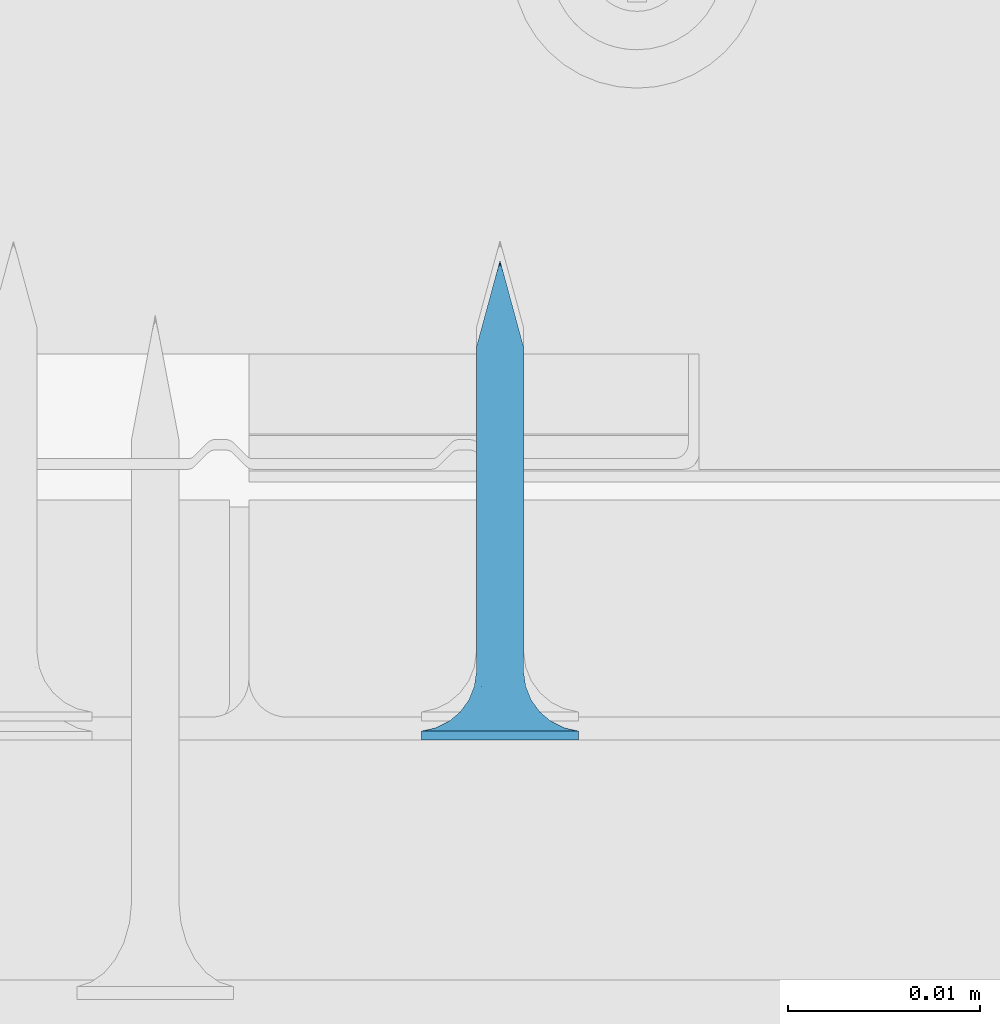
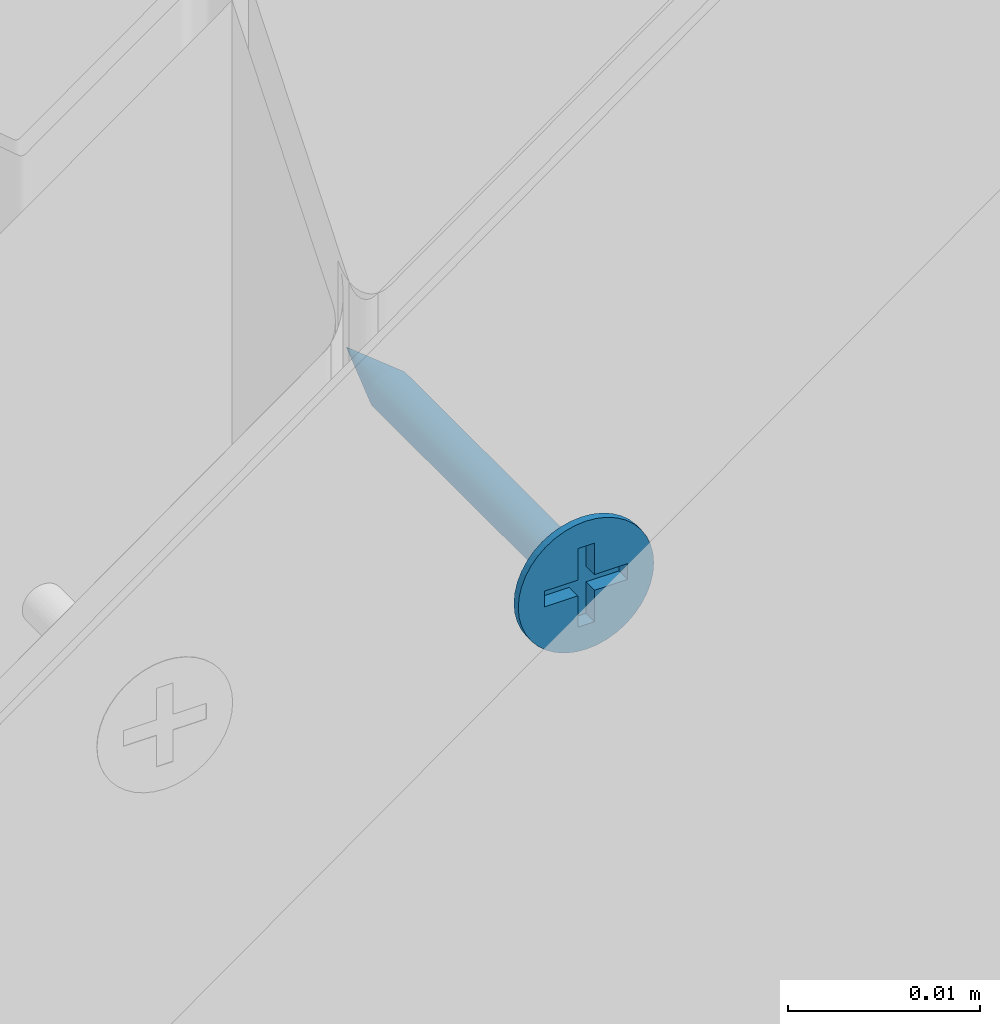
# One storey, part 24 of 38: 1 wall.
"""IFC2X3 building model written with IfcOpenShell, lengths in millimetres."""

from ifc_helpers import new_model, entity, si_unit, converted_unit, direction, frame, origin, origin_with_axes, place, context, project, spatial, faceted_brep, element, save


model = new_model("IFC2X3")

# Units and contexts
model_context = context("Model", 3, precision=1e-05, world=origin(), true_north=direction((0.0, 1.0, 0.0)))
ifc_project = project(units=[si_unit("LENGTHUNIT", "METRE", prefix="MILLI"), si_unit("AREAUNIT", "SQUARE_METRE"), si_unit("VOLUMEUNIT", "CUBIC_METRE"), converted_unit("PLANEANGLEUNIT", "DEGREE", entity("IfcPlaneAngleMeasure", 0.01745), si_unit("PLANEANGLEUNIT", "RADIAN"), dimensions=[0, 0, 0, 0, 0, 0, 0]), si_unit("SOLIDANGLEUNIT", "STERADIAN"), si_unit("MASSUNIT", "GRAM"), si_unit("TIMEUNIT", "SECOND"), si_unit("THERMODYNAMICTEMPERATUREUNIT", "DEGREE_CELSIUS"), si_unit("LUMINOUSINTENSITYUNIT", "LUMEN")], contexts=[model_context])

# Site, building, storey
site_placement = place(None, origin_with_axes())
site = spatial("IfcSite", under=ifc_project, at=site_placement, Name="Default Site", CompositionType="ELEMENT")
building_placement = place(site_placement, origin_with_axes())
building = spatial("IfcBuilding", under=site, at=building_placement, Name="Default Building", CompositionType="ELEMENT")
storey_placement = place(building_placement, origin_with_axes())
storey = spatial("IfcBuildingStorey", under=building, at=storey_placement, Name="Default Building Storey", CompositionType="ELEMENT", Elevation=0.0)

# Wall
wall_placement = place(storey_placement, frame((2438.967443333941, 5349.713057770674, -449.8785300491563), z_axis=(0.0, 0.0, 1.0), x_axis=(1.0, 8.115730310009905e-16, 0.0)))
element("IfcWall", 1, at=wall_placement, inside=storey, Name="Wkręt RIGIPS TN 25", context=model_context, shape_type="Brep", body=[
    faceted_brep([(-141.5377463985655, -3390.556721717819, 555.8000000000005), (-141.5377463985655, -3391.020944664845, 555.8000000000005), (-141.4875329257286, -3391.020944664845, 555.1619773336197), (-141.4875329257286, -3390.556721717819, 555.1619773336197), (-141.338128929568, -3391.020944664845, 554.5396649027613), (-141.338128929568, -3390.556721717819, 554.5396649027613), (-141.0932132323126, -3391.020944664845, 553.9483861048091), (-141.0932132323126, -3390.556721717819, 553.9483861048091), (-140.7588164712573, -3391.020944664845, 553.4027001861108), (-140.7588164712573, -3390.556721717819, 553.4027001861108), (-140.3431726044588, -3391.020944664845, 552.9160437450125), (-140.4541727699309, -3390.556721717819, 553.0314907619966), (-140.1080097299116, -3390.556721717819, 552.6986614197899), (-139.8565161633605, -3391.020944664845, 552.500399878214), (-139.7251262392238, -3390.556721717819, 552.4088262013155), (-139.3108302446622, -3391.020944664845, 552.1660031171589), (-139.3108302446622, -3390.556721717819, 552.1660031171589), (-138.8708651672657, -3390.556721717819, 551.9735584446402), (-138.7195514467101, -3391.020944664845, 551.9210874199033), (-138.4113302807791, -3390.556721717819, 551.8341600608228), (-137.9385961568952, -3390.556721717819, 551.7497404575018), (-138.0972390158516, -3391.020944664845, 551.7716834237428), (-137.459216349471, -3391.020944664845, 551.7214699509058), (-137.459216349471, -3390.556721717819, 551.7214699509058), (-136.8211936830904, -3391.020944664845, 551.7716834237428), (-136.8211936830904, -3390.556721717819, 551.7716834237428), (-136.198881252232, -3391.020944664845, 551.9210874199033), (-136.198881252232, -3390.556721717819, 551.9210874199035), (-135.6076024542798, -3391.020944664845, 552.1660031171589), (-135.6076024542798, -3390.556721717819, 552.1660031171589), (-135.0619165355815, -3391.020944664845, 552.500399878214), (-135.0619165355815, -3390.556721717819, 552.500399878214), (-134.5752600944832, -3391.020944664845, 552.9160437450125), (-134.5752600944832, -3390.556721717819, 552.9160437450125), (-134.1596162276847, -3391.020944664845, 553.4027001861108), (-134.1596162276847, -3390.556721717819, 553.4027001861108), (-133.8252194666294, -3391.020944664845, 553.9483861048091), (-133.8252194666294, -3390.556721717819, 553.9483861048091), (-133.580303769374, -3391.020944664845, 554.5396649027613), (-133.580303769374, -3390.556721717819, 554.5396649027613), (-133.4308997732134, -3391.020944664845, 556.438022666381), (-133.4308997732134, -3390.556721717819, 556.438022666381), (-133.3806863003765, -3390.556721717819, 555.8000000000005), (-133.3806863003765, -3391.020944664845, 555.8000000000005), (-133.4308997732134, -3390.556721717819, 555.1619773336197), (-133.4308997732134, -3391.020944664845, 555.1619773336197), (-133.580303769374, -3391.020944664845, 557.0603350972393), (-133.580303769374, -3390.556721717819, 557.0603350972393), (-133.8252194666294, -3391.020944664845, 557.6516138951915), (-133.8252194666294, -3390.556721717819, 557.6516138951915), (-134.1596162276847, -3391.020944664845, 558.1972998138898), (-134.1596162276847, -3390.556721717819, 558.1972998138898), (-134.5752600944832, -3391.020944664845, 558.6839562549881), (-134.5752600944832, -3390.556721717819, 558.6839562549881), (-135.0619165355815, -3391.020944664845, 559.0996001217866), (-135.0619165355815, -3390.556721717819, 559.0996001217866), (-135.6076024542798, -3391.020944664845, 559.4339968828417), (-135.6076024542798, -3390.556721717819, 559.4339968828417), (-136.198881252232, -3391.020944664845, 559.6789125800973), (-136.198881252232, -3390.556721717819, 559.6789125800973), (-136.8211936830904, -3391.020944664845, 559.8283165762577), (-136.8211936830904, -3390.556721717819, 559.8283165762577), (-137.459216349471, -3391.020944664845, 559.8785300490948), (-137.459216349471, -3390.556721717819, 559.8785300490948), (-138.0972390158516, -3391.020944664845, 559.8283165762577), (-138.0972390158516, -3390.556721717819, 559.8283165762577), (-138.7195514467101, -3391.020944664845, 559.6789125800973), (-138.7195514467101, -3390.556721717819, 559.6789125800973), (-139.3108302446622, -3391.020944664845, 559.4339968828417), (-139.3108302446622, -3390.556721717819, 559.4339968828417), (-139.8565161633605, -3391.020944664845, 559.0996001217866), (-139.8565161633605, -3390.556721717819, 559.0996001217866), (-140.3431726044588, -3391.020944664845, 558.6839562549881), (-140.3431726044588, -3390.556721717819, 558.6839562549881), (-140.7588164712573, -3391.020944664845, 558.1972998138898), (-140.7588164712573, -3390.556721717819, 558.1972998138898), (-141.0932132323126, -3391.020944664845, 557.6516138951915), (-141.0932132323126, -3390.556721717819, 557.6516138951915), (-141.338128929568, -3391.020944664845, 557.0603350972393), (-141.338128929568, -3390.556721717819, 557.0603350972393), (-141.4875329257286, -3391.020944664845, 556.438022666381), (-141.4875329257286, -3390.556721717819, 556.438022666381), (-137.8060615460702, -3388.229732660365, 554.5055560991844), (-137.459216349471, -3387.475459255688, 554.5693795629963), (-137.6517277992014, -3387.475459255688, 554.5845305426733), (-137.459216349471, -3388.229732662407, 554.4598930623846), (-137.8394989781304, -3387.475459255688, 554.6296104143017), (-138.1292698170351, -3388.229732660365, 554.6394333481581), (-138.0179063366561, -3387.475459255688, 554.7035091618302), (-138.1825568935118, -3387.475459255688, 554.8044071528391), (-138.4068150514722, -3388.229732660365, 554.8524012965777), (-138.3293964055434, -3387.475459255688, 554.9298199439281), (-138.6197830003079, -3388.229732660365, 555.1299465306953), (-138.4548091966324, -3387.475459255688, 555.0766594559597), (-138.5557071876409, -3387.475459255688, 555.2413100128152), (-138.7536602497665, -3388.229732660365, 555.4531548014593), (-138.6296059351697, -3387.475459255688, 555.4197173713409), (-138.6746858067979, -3387.475459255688, 555.6074885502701), (-138.7993232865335, -3388.229732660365, 555.7999999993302), (-138.6898367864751, -3387.475459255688, 555.8000000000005), (-138.7536602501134, -3388.229732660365, 556.1468451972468), (-138.6746858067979, -3387.475459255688, 555.9925114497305), (-138.6296059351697, -3387.475459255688, 556.1802826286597), (-138.6197830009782, -3388.229732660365, 556.4700534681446), (-138.5557071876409, -3387.475459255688, 556.3586899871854), (-138.4548091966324, -3387.475459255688, 556.5233405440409), (-138.4068150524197, -3388.229732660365, 556.7475987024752), (-138.3293964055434, -3387.475459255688, 556.6701800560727), (-138.1292698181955, -3388.229732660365, 556.9605666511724), (-138.1825568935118, -3387.475459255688, 556.7955928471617), (-138.0179063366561, -3387.475459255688, 556.8964908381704), (-137.8060615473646, -3388.229732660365, 557.0944439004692), (-137.8394989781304, -3387.475459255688, 556.9703895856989), (-137.6517277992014, -3387.475459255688, 557.0154694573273), (-137.459216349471, -3388.229732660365, 557.1401069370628), (-137.459216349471, -3387.475459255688, 557.0306204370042), (-137.1123711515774, -3388.229732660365, 557.0944439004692), (-137.2667048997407, -3387.475459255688, 557.0154694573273), (-137.0789337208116, -3387.475459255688, 556.9703895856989), (-136.7891628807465, -3388.229732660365, 556.9605666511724), (-136.9005263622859, -3387.475459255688, 556.8964908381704), (-136.7358758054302, -3387.475459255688, 556.7955928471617), (-136.5116176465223, -3388.229732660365, 556.7475987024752), (-136.5890362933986, -3387.475459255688, 556.6701800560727), (-136.2986496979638, -3388.229732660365, 556.4700534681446), (-136.4636235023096, -3387.475459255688, 556.5233405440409), (-136.3627255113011, -3387.475459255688, 556.3586899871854), (-136.1647724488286, -3388.229732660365, 556.1468451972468), (-136.2888267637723, -3387.475459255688, 556.1802826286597), (-136.2437468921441, -3387.475459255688, 555.9925114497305), (-136.1191094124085, -3388.229732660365, 555.7999999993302), (-136.2285959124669, -3387.475459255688, 555.8000000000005), (-136.1647724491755, -3388.229732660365, 555.4531548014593), (-136.2437468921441, -3387.475459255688, 555.6074885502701), (-136.2888267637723, -3387.475459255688, 555.4197173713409), (-136.2986496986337, -3388.229732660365, 555.1299465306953), (-136.3627255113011, -3387.475459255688, 555.2413100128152), (-136.4636235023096, -3387.475459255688, 555.0766594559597), (-136.5116176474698, -3388.229732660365, 554.8524012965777), (-136.5890362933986, -3387.475459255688, 554.9298199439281), (-136.7891628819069, -3388.229732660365, 554.6394333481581), (-136.7358758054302, -3387.475459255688, 554.8044071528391), (-136.9005263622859, -3387.475459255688, 554.7035091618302), (-137.1123711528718, -3388.229732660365, 554.5055560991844), (-137.0789337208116, -3387.475459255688, 554.6296104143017), (-137.2667048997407, -3387.475459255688, 554.5845305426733), (-137.459216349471, -3388.936142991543, 554.1737111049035), (-137.8801308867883, -3388.936142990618, 554.2291255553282), (-138.2723607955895, -3388.936142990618, 554.39159250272), (-138.6091762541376, -3388.936142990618, 554.6500400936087), (-138.8676238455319, -3388.936142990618, 554.9868555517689), (-139.030090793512, -3388.936142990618, 555.3790854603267), (-139.0855052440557, -3388.936142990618, 555.7999999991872), (-139.0300907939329, -3388.936142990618, 556.220914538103), (-138.8676238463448, -3388.936142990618, 556.6131444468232), (-138.6091762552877, -3388.936142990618, 556.949959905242), (-138.272360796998, -3388.936142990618, 557.2084074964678), (-137.8801308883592, -3388.936142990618, 557.3708744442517), (-137.459216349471, -3388.936142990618, 557.4262888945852), (-137.0383018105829, -3388.936142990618, 557.3708744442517), (-136.646071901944, -3388.936142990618, 557.2084074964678), (-136.3092564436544, -3388.936142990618, 556.949959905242), (-136.0508088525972, -3388.936142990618, 556.6131444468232), (-135.8883419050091, -3388.936142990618, 556.220914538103), (-135.8329274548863, -3388.936142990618, 555.7999999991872), (-135.88834190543, -3388.936142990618, 555.3790854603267), (-136.0508088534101, -3388.936142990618, 554.9868555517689), (-136.3092564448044, -3388.936142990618, 554.6500400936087), (-136.6460719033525, -3388.936142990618, 554.39159250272), (-137.0383018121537, -3388.936142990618, 554.2291255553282), (-137.459216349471, -3389.553938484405, 553.727343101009), (-137.995659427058, -3389.553938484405, 553.7979671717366), (-138.4955447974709, -3389.553938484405, 554.0050264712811), (-138.9248060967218, -3389.553938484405, 554.3344102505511), (-139.2541898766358, -3389.553938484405, 554.763671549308), (-139.46124917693, -3389.553938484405, 555.2635569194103), (-139.5318732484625, -3389.553938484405, 555.799999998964), (-139.4612491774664, -3389.553938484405, 556.3364430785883), (-139.2541898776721, -3389.553938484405, 556.8363284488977), (-138.9248060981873, -3389.553938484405, 557.2655897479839), (-138.495544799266, -3389.553938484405, 557.5949735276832), (-137.9956594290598, -3389.553938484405, 557.8020328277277), (-137.459216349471, -3389.553938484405, 557.8726568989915), (-136.9227732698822, -3389.553938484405, 557.8020328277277), (-136.422887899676, -3389.553938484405, 557.5949735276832), (-135.9936266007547, -3389.553938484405, 557.2655897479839), (-135.6642428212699, -3389.553938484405, 556.8363284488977), (-135.4571835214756, -3389.553938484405, 556.3364430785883), (-135.3865594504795, -3389.553938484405, 555.799999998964), (-135.457183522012, -3389.553938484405, 555.2635569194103), (-135.6642428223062, -3389.553938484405, 554.763671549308), (-135.9936266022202, -3389.553938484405, 554.3344102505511), (-136.4228879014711, -3389.553938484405, 554.0050264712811), (-136.922773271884, -3389.553938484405, 553.7979671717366), (-137.459216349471, -3390.04747944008, 553.1465393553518), (-138.1459824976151, -3390.047479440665, 553.2369538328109), (-138.7859466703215, -3390.047479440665, 553.5020356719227), (-139.3354963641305, -3390.047479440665, 553.9237199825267), (-139.7571806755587, -3390.047479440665, 554.4732696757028), (-140.0222625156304, -3390.047479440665, 555.1132338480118), (-140.1126769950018, -3390.047479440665, 555.7999999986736), (-140.0222625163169, -3390.047479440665, 556.4867661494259), (-139.7571806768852, -3390.047479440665, 557.1267303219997), (-139.3354963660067, -3390.047479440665, 557.6762800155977), (-138.7859466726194, -3390.047479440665, 558.0979643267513), (-138.1459825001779, -3390.047479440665, 558.3630461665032), (-137.459216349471, -3390.047479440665, 558.4534606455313), (-136.7724501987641, -3390.047479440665, 558.3630461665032), (-136.1324860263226, -3390.047479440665, 558.0979643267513), (-135.5829363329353, -3390.047479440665, 557.6762800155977), (-135.1612520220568, -3390.047479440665, 557.1267303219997), (-134.8961701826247, -3390.047479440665, 556.4867661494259), (-134.8057557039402, -3390.047479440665, 555.7999999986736), (-134.8961701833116, -3390.047479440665, 555.1132338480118), (-135.1612520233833, -3390.047479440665, 554.4732696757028), (-135.5829363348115, -3390.047479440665, 553.9237199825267), (-136.1324860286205, -3390.047479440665, 553.5020356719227), (-136.7724502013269, -3390.047479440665, 553.2369538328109), (-137.459216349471, -3390.388294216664, 552.4648055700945), (-138.3224281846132, -3390.388294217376, 552.5784495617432), (-139.1268135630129, -3390.388294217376, 552.9116368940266), (-139.8175549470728, -3390.388294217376, 553.4416613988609), (-140.3475794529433, -3390.388294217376, 554.1324027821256), (-140.6807667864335, -3390.388294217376, 554.936788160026), (-140.7944107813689, -3390.388294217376, 555.7999999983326), (-140.6807667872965, -3390.388294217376, 556.663211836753), (-140.3475794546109, -3390.388294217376, 557.4675972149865), (-139.8175549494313, -3390.388294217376, 558.1583385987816), (-139.1268135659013, -3390.388294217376, 558.6883631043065), (-138.3224281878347, -3390.388294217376, 559.0215504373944), (-137.459216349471, -3390.388294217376, 559.1351944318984), (-136.5960045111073, -3390.388294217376, 559.0215504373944), (-135.7916191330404, -3390.388294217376, 558.6883631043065), (-135.1008777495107, -3390.388294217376, 558.1583385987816), (-134.5708532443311, -3390.388294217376, 557.4675972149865), (-134.2376659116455, -3390.388294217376, 556.663211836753), (-134.1240219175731, -3390.388294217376, 555.7999999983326), (-134.2376659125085, -3390.388294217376, 554.936788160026), (-134.5708532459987, -3390.388294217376, 554.1324027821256), (-135.1008777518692, -3390.388294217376, 553.4416613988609), (-135.7916191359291, -3390.388294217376, 552.9116368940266), (-136.5960045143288, -3390.388294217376, 552.5784495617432), (-138.6898367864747, -3370.55807436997, 555.8000000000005), (-138.6746858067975, -3370.55807436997, 555.6074885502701), (-138.6296059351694, -3370.55807436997, 555.4197173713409), (-138.5557071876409, -3370.55807436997, 555.2413100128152), (-138.4548091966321, -3370.55807436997, 555.0766594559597), (-138.329396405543, -3370.55807436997, 554.9298199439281), (-138.1825568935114, -3370.55807436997, 554.8044071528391), (-138.0179063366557, -3370.55807436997, 554.7035091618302), (-137.83949897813, -3370.55807436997, 554.6296104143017), (-137.651727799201, -3370.55807436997, 554.5845305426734), (-137.4592163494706, -3370.55807436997, 554.5693795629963), (-137.2667048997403, -3370.55807436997, 554.5845305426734), (-137.0789337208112, -3370.55807436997, 554.6296104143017), (-136.9005263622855, -3370.55807436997, 554.7035091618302), (-136.7358758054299, -3370.55807436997, 554.8044071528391), (-136.5890362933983, -3370.55807436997, 554.9298199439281), (-136.4636235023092, -3370.55807436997, 555.0766594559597), (-136.3627255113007, -3370.55807436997, 555.2413100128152), (-136.2888267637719, -3370.55807436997, 555.4197173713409), (-136.2437468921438, -3370.55807436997, 555.9925114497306), (-136.2285959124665, -3370.55807436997, 555.8000000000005), (-136.2437468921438, -3370.55807436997, 555.6074885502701), (-136.2888267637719, -3370.55807436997, 556.1802826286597), (-136.3627255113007, -3370.55807436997, 556.3586899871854), (-136.4636235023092, -3370.55807436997, 556.5233405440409), (-136.5890362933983, -3370.55807436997, 556.6701800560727), (-136.7358758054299, -3370.55807436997, 556.7955928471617), (-136.9005263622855, -3370.55807436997, 556.8964908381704), (-137.0789337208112, -3370.55807436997, 556.9703895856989), (-137.2667048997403, -3370.55807436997, 557.0154694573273), (-137.4592163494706, -3370.55807436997, 557.0306204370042), (-137.651727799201, -3370.55807436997, 557.0154694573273), (-137.83949897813, -3370.55807436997, 556.9703895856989), (-138.0179063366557, -3370.55807436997, 556.8964908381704), (-138.1825568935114, -3370.55807436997, 556.7955928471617), (-138.329396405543, -3370.55807436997, 556.6701800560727), (-138.4548091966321, -3370.55807436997, 556.5233405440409), (-138.5557071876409, -3370.55807436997, 556.3586899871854), (-138.6296059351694, -3370.55807436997, 556.1802826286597), (-138.6746858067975, -3370.55807436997, 555.9925114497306), (-137.4592163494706, -3366.021033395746, 555.8000000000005), (-139.9592163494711, -3391.020944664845, 556.3000000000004), (-137.9592163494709, -3391.020944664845, 556.3000000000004), (-139.9592163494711, -3391.020944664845, 555.3000000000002), (-137.9592163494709, -3391.020944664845, 555.3000000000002), (-137.9592163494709, -3391.020944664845, 553.3000000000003), (-136.9592163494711, -3391.020944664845, 553.3000000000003), (-136.9592163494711, -3391.020944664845, 555.3000000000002), (-134.9592163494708, -3391.020944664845, 555.3000000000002), (-134.9592163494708, -3391.020944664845, 556.3000000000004), (-136.9592163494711, -3391.020944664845, 556.3000000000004), (-136.9592163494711, -3391.020944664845, 558.3000000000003), (-137.9592163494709, -3391.020944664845, 558.3000000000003), (-136.9592163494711, -3390.128974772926, 556.3000000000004), (-134.9592163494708, -3390.128974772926, 556.3000000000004), (-134.9592163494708, -3390.128974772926, 555.3000000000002), (-136.9592163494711, -3390.128974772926, 555.3000000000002), (-136.9592163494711, -3390.128974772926, 553.3000000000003), (-137.9592163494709, -3390.128974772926, 553.3000000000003), (-137.9592163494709, -3390.128974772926, 555.3000000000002), (-139.9592163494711, -3390.128974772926, 555.3000000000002), (-139.9592163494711, -3390.128974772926, 556.3000000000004), (-137.9592163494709, -3390.128974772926, 556.3000000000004), (-137.9592163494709, -3390.128974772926, 558.3000000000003), (-136.9592163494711, -3390.128974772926, 558.3000000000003)], [[[0, 1, 2, 3]], [[4, 5, 3, 2]], [[6, 7, 5, 4]], [[7, 6, 8, 9]], [[8, 10, 9]], [[10, 11, 9]], [[12, 11, 13]], [[11, 10, 13]], [[13, 14, 12]], [[13, 15, 14]], [[15, 16, 14]], [[17, 16, 18]], [[16, 15, 18]], [[18, 19, 17]], [[20, 19, 21]], [[19, 18, 21]], [[21, 22, 20]], [[22, 23, 20]], [[23, 22, 24, 25]], [[26, 27, 25, 24]], [[28, 29, 27, 26]], [[29, 28, 30, 31]], [[32, 33, 31, 30]], [[33, 32, 34, 35]], [[36, 37, 35, 34]], [[38, 39, 37, 36]], [[40, 41, 42, 43]], [[43, 42, 44, 45]], [[39, 38, 45, 44]], [[46, 47, 41, 40]], [[48, 49, 47, 46]], [[49, 48, 50, 51]], [[52, 53, 51, 50]], [[53, 52, 54, 55]], [[56, 57, 55, 54]], [[58, 59, 57, 56]], [[59, 58, 60, 61]], [[62, 63, 61, 60]], [[63, 62, 64, 65]], [[66, 67, 65, 64]], [[68, 69, 67, 66]], [[69, 68, 70, 71]], [[72, 73, 71, 70]], [[73, 72, 74, 75]], [[76, 77, 75, 74]], [[78, 79, 77, 76]], [[79, 78, 80, 81]], [[1, 0, 81, 80]], [[82, 83, 84]], [[82, 85, 83]], [[84, 86, 82]], [[82, 86, 87]], [[88, 87, 86]], [[87, 88, 89]], [[89, 90, 87]], [[89, 91, 90]], [[92, 91, 93]], [[92, 90, 91]], [[93, 94, 92]], [[92, 94, 95]], [[96, 95, 94]], [[95, 96, 97]], [[97, 98, 95]], [[97, 99, 98]], [[100, 99, 101]], [[100, 98, 99]], [[101, 102, 100]], [[100, 102, 103]], [[104, 103, 102]], [[103, 104, 105]], [[105, 106, 103]], [[105, 107, 106]], [[108, 107, 109]], [[108, 106, 107]], [[109, 110, 108]], [[108, 110, 111]], [[112, 111, 110]], [[111, 112, 113]], [[113, 114, 111]], [[113, 115, 114]], [[116, 115, 117]], [[116, 114, 115]], [[117, 118, 116]], [[116, 118, 119]], [[120, 119, 118]], [[119, 120, 121]], [[121, 122, 119]], [[121, 123, 122]], [[124, 123, 125]], [[124, 122, 123]], [[125, 126, 124]], [[124, 126, 127]], [[128, 127, 126]], [[127, 128, 129]], [[129, 130, 127]], [[129, 131, 130]], [[132, 131, 133]], [[132, 130, 131]], [[133, 134, 132]], [[132, 134, 135]], [[136, 135, 134]], [[135, 136, 137]], [[137, 138, 135]], [[137, 139, 138]], [[140, 139, 141]], [[140, 138, 139]], [[141, 142, 140]], [[140, 142, 143]], [[144, 143, 142]], [[143, 144, 145]], [[145, 85, 143]], [[145, 83, 85]], [[146, 85, 147]], [[82, 147, 85]], [[87, 148, 147, 82]], [[90, 149, 148, 87]], [[92, 150, 149, 90]], [[95, 151, 150, 92]], [[98, 152, 151, 95]], [[100, 153, 152, 98]], [[103, 154, 153, 100]], [[106, 155, 154, 103]], [[108, 156, 155, 106]], [[111, 157, 156, 108]], [[114, 158, 157, 111]], [[116, 159, 158, 114]], [[119, 160, 159, 116]], [[122, 161, 160, 119]], [[124, 162, 161, 122]], [[127, 163, 162, 124]], [[130, 164, 163, 127]], [[132, 165, 164, 130]], [[135, 166, 165, 132]], [[138, 167, 166, 135]], [[140, 168, 167, 138]], [[143, 169, 168, 140]], [[143, 85, 169]], [[146, 169, 85]], [[170, 146, 171]], [[147, 171, 146]], [[148, 172, 171, 147]], [[149, 173, 172, 148]], [[150, 174, 173, 149]], [[151, 175, 174, 150]], [[152, 176, 175, 151]], [[153, 177, 176, 152]], [[154, 178, 177, 153]], [[155, 179, 178, 154]], [[156, 180, 179, 155]], [[157, 181, 180, 156]], [[158, 182, 181, 157]], [[159, 183, 182, 158]], [[160, 184, 183, 159]], [[161, 185, 184, 160]], [[162, 186, 185, 161]], [[163, 187, 186, 162]], [[164, 188, 187, 163]], [[165, 189, 188, 164]], [[166, 190, 189, 165]], [[167, 191, 190, 166]], [[168, 192, 191, 167]], [[169, 193, 192, 168]], [[169, 146, 193]], [[170, 193, 146]], [[194, 170, 195]], [[171, 195, 170]], [[172, 196, 195, 171]], [[173, 197, 196, 172]], [[174, 198, 197, 173]], [[175, 199, 198, 174]], [[176, 200, 199, 175]], [[177, 201, 200, 176]], [[178, 202, 201, 177]], [[179, 203, 202, 178]], [[180, 204, 203, 179]], [[181, 205, 204, 180]], [[182, 206, 205, 181]], [[183, 207, 206, 182]], [[184, 208, 207, 183]], [[185, 209, 208, 184]], [[186, 210, 209, 185]], [[187, 211, 210, 186]], [[188, 212, 211, 187]], [[189, 213, 212, 188]], [[190, 214, 213, 189]], [[191, 215, 214, 190]], [[192, 216, 215, 191]], [[193, 217, 216, 192]], [[193, 170, 217]], [[194, 217, 170]], [[218, 19, 20]], [[218, 219, 19]], [[20, 23, 218]], [[218, 194, 219]], [[195, 219, 194]], [[219, 16, 17]], [[219, 220, 16]], [[17, 19, 219]], [[196, 220, 219, 195]], [[221, 11, 12]], [[220, 12, 14]], [[220, 221, 12]], [[14, 16, 220]], [[197, 221, 220, 196]], [[222, 7, 9]], [[9, 221, 222]], [[9, 11, 221]], [[198, 222, 221, 197]], [[5, 7, 223]], [[222, 223, 7]], [[199, 223, 222, 198]], [[223, 0, 3]], [[223, 224, 0]], [[3, 5, 223]], [[200, 224, 223, 199]], [[225, 79, 81]], [[81, 224, 225]], [[81, 0, 224]], [[201, 225, 224, 200]], [[225, 226, 77, 79]], [[202, 226, 225, 201]], [[226, 73, 75]], [[226, 227, 73]], [[75, 77, 226]], [[203, 227, 226, 202]], [[228, 69, 71]], [[71, 227, 228]], [[71, 73, 227]], [[204, 228, 227, 203]], [[228, 229, 67, 69]], [[205, 229, 228, 204]], [[229, 63, 65]], [[229, 230, 63]], [[65, 67, 229]], [[206, 230, 229, 205]], [[231, 59, 61]], [[61, 230, 231]], [[61, 63, 230]], [[207, 231, 230, 206]], [[231, 232, 57, 59]], [[208, 232, 231, 207]], [[232, 53, 55]], [[232, 233, 53]], [[55, 57, 232]], [[209, 233, 232, 208]], [[234, 49, 51]], [[51, 233, 234]], [[51, 53, 233]], [[210, 234, 233, 209]], [[234, 235, 47, 49]], [[211, 235, 234, 210]], [[235, 42, 41]], [[235, 236, 42]], [[41, 47, 235]], [[212, 236, 235, 211]], [[237, 39, 44]], [[44, 236, 237]], [[44, 42, 236]], [[213, 237, 236, 212]], [[37, 39, 238]], [[237, 238, 39]], [[214, 238, 237, 213]], [[238, 33, 35]], [[238, 239, 33]], [[35, 37, 238]], [[215, 239, 238, 214]], [[240, 29, 31]], [[31, 239, 240]], [[31, 33, 239]], [[216, 240, 239, 215]], [[27, 29, 241]], [[240, 241, 29]], [[217, 241, 240, 216]], [[217, 194, 241]], [[218, 241, 194]], [[241, 23, 25]], [[241, 218, 23]], [[25, 27, 241]], [[242, 99, 97, 243]], [[96, 244, 243, 97]], [[94, 245, 244, 96]], [[245, 94, 93, 246]], [[91, 247, 246, 93]], [[247, 91, 89, 248]], [[88, 249, 248, 89]], [[86, 250, 249, 88]], [[250, 86, 84, 251]], [[83, 252, 251, 84]], [[252, 83, 145, 253]], [[144, 254, 253, 145]], [[142, 255, 254, 144]], [[255, 142, 141, 256]], [[139, 257, 256, 141]], [[257, 139, 137, 258]], [[136, 259, 258, 137]], [[134, 260, 259, 136]], [[129, 261, 262, 131]], [[131, 262, 263, 133]], [[260, 134, 133, 263]], [[128, 264, 261, 129]], [[126, 265, 264, 128]], [[265, 126, 125, 266]], [[123, 267, 266, 125]], [[267, 123, 121, 268]], [[120, 269, 268, 121]], [[118, 270, 269, 120]], [[270, 118, 117, 271]], [[115, 272, 271, 117]], [[272, 115, 113, 273]], [[112, 274, 273, 113]], [[110, 275, 274, 112]], [[275, 110, 109, 276]], [[107, 277, 276, 109]], [[277, 107, 105, 278]], [[104, 279, 278, 105]], [[102, 280, 279, 104]], [[280, 102, 101, 281]], [[99, 242, 281, 101]], [[243, 244, 282]], [[282, 242, 243]], [[244, 245, 282]], [[246, 247, 282]], [[282, 245, 246]], [[248, 249, 282]], [[282, 247, 248]], [[249, 250, 282]], [[251, 252, 282]], [[282, 250, 251]], [[253, 254, 282]], [[282, 252, 253]], [[254, 255, 282]], [[256, 257, 282]], [[282, 255, 256]], [[258, 259, 282]], [[282, 257, 258]], [[259, 260, 282]], [[263, 262, 282]], [[282, 260, 263]], [[261, 264, 282]], [[282, 262, 261]], [[264, 265, 282]], [[266, 267, 282]], [[282, 265, 266]], [[268, 269, 282]], [[282, 267, 268]], [[269, 270, 282]], [[271, 272, 282]], [[282, 270, 271]], [[273, 274, 282]], [[282, 272, 273]], [[274, 275, 282]], [[276, 277, 282]], [[282, 275, 276]], [[278, 279, 282]], [[282, 277, 278]], [[279, 280, 282]], [[281, 242, 282]], [[282, 280, 281]], [[283, 76, 74, 284]], [[283, 285, 286, 287, 288, 289, 290, 291, 292, 293, 294, 284, 74, 72, 70, 68, 66, 64, 62, 60, 58, 56, 54, 52, 50, 48, 46, 40, 43, 45, 38, 36, 34, 32, 30, 28, 26, 24, 22, 21, 18, 15, 13, 10, 8, 6, 4, 2, 1, 80, 78, 76]], [[295, 296, 297, 298, 299, 300, 301, 302, 303, 304, 305, 306]], [[297, 290, 289, 298]], [[296, 291, 290, 297]], [[295, 292, 291, 296]], [[306, 293, 292, 295]], [[305, 294, 293, 306]], [[304, 284, 294, 305]], [[303, 283, 284, 304]], [[302, 285, 283, 303]], [[301, 286, 285, 302]], [[300, 287, 286, 301]], [[299, 288, 287, 300]], [[298, 289, 288, 299]]]),
])

save(model, "model.ifc")
